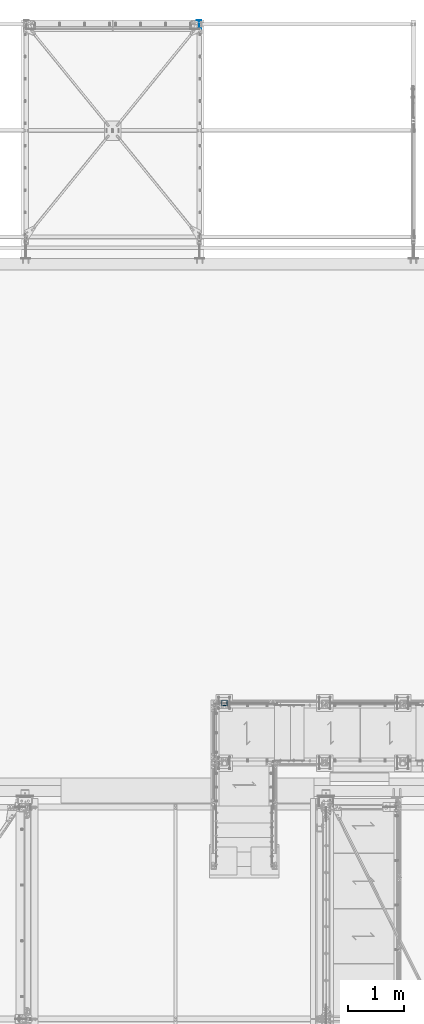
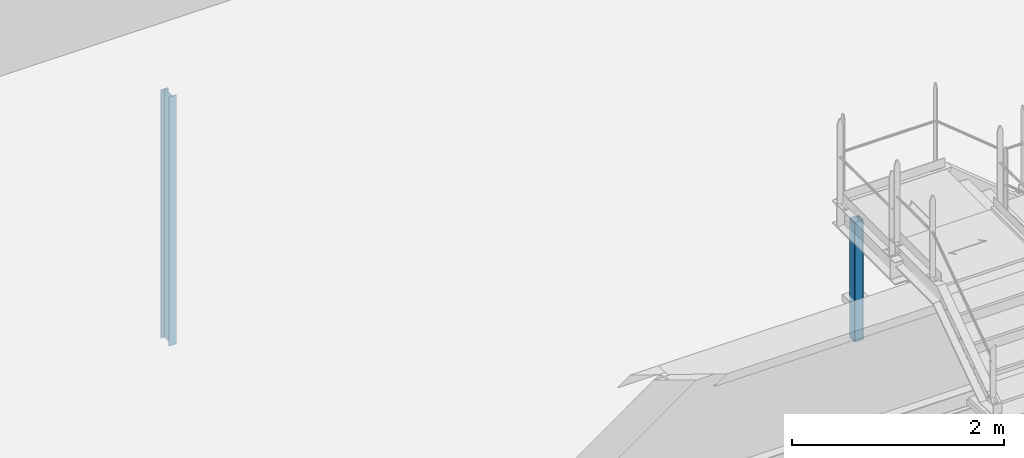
# One storey, part 19 of 362: 2 columns, 2 elements without a shape of their own.
"""IFC2X3 building model written with IfcOpenShell, lengths in millimetres."""

from ifc_helpers import new_model, si_unit, frame, origin_with_axes, origin_2d_with_axis, place, context, subcontext, project, spatial, hollow_rectangle, i_section, extrude, clip, halfspace, material, type_object, element, aggregate, save


model = new_model("IFC2X3")

# Units and contexts
model_context = context("Model", 3, precision=1e-05, world=origin_with_axes())
body_context = subcontext(model_context, "Body", "Model", "MODEL_VIEW")
ifc_project = project(units=[si_unit("LENGTHUNIT", "METRE", prefix="MILLI"), si_unit("AREAUNIT", "SQUARE_METRE"), si_unit("VOLUMEUNIT", "CUBIC_METRE"), si_unit("MASSUNIT", "GRAM", prefix="KILO"), si_unit("TIMEUNIT", "SECOND"), si_unit("PLANEANGLEUNIT", "RADIAN"), si_unit("SOLIDANGLEUNIT", "STERADIAN"), si_unit("THERMODYNAMICTEMPERATUREUNIT", "DEGREE_CELSIUS"), si_unit("LUMINOUSINTENSITYUNIT", "LUMEN")], contexts=[model_context])

# Site, building, storey
site_placement = place(None, origin_with_axes())
site = spatial("IfcSite", under=ifc_project, at=site_placement, Name="Undefined", CompositionType="ELEMENT")
building_placement = place(site_placement, origin_with_axes())
building = spatial("IfcBuilding", under=site, at=building_placement, Name="Undefined", CompositionType="ELEMENT")
storey_placement = place(building_placement, origin_with_axes())
storey = spatial("IfcBuildingStorey", under=building, at=storey_placement, Name="Undefined", CompositionType="ELEMENT", Elevation=0.0)

# Assembly, column
assembly_1_placement = place(storey_placement, origin_with_axes())
assembly_1 = element("IfcElementAssembly", 1, at=assembly_1_placement, inside=storey, AssemblyPlace="NOTDEFINED", PredefinedType="NOTDEFINED")
ifc_material_1 = material(Name="Undefined/S235-E24")
column_type_1 = type_object("IfcColumnType", Name="TUBE-C-100*100*5", PredefinedType="NOTDEFINED")
column_1_placement = place(assembly_1_placement, frame((32455.0000000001, 17069.9996684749, 7062.0), z_axis=(0.0, 0.0, 1.0), x_axis=(0.0, -1.0, 0.0)))
column_1 = element("IfcColumn", 2, at=column_1_placement, type_object=column_type_1, material=ifc_material_1, Name="POTELET", ObjectType="TUBE-C-100*100*5", context=body_context, shape_type="SweptSolid", body=[
    extrude(hollow_rectangle(XDim=100.0, YDim=100.0, WallThickness=5.0, InnerFilletRadius=5.0, OuterFilletRadius=10.0, at=origin_2d_with_axis()), frame((0.0, 0.0, 1370.00011661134), z_axis=(0.0, 0.0, -1.0), x_axis=(0.0, 1.0, 0.0)), (0.0, 0.0, 1.0), 1370.0),
])
aggregate(assembly_1, [column_1])

assembly_2_placement = place(storey_placement, origin_with_axes())
assembly_2 = element("IfcElementAssembly", 3, at=assembly_2_placement, inside=storey, Name="POTEAU", AssemblyPlace="NOTDEFINED", PredefinedType="NOTDEFINED")
ifc_material_2 = material(Name="Undefined/S275-E28")
column_type_2 = type_object("IfcColumnType", Name="IPE160", PredefinedType="NOTDEFINED")
column_2_placement = place(assembly_2_placement, frame((32002.9999789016, 29240.0000892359, -190.00000000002), z_axis=(0.0, 0.0, 1.0), x_axis=(0.0, 1.0, 0.0)))
column_2 = element("IfcColumn", 4, at=column_2_placement, type_object=column_type_2, material=ifc_material_2, Name="POTEAU", ObjectType="IPE160", context=body_context, shape_type="Clipping", body=[
    clip(extrude(i_section(OverallWidth=82.0, OverallDepth=160.0, WebThickness=5.0, FlangeThickness=7.400000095, FilletRadius=9.0, at=origin_2d_with_axis()), frame((0.0, 0.0, 2861.99932070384), z_axis=(0.0, 0.0, -1.0), x_axis=(0.0, 1.0, 0.0)), (0.0, 0.0, 1.0), 2862.0), halfspace(frame((-80.6323996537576, 3099.99999917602, 2861.990582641), z_axis=(-0.0523092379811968, 1.37715964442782e-08, -0.998630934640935), x_axis=(0.0, -1.0, 0.0)), True)),
])
aggregate(assembly_2, [column_2])

save(model, "model.ifc")
